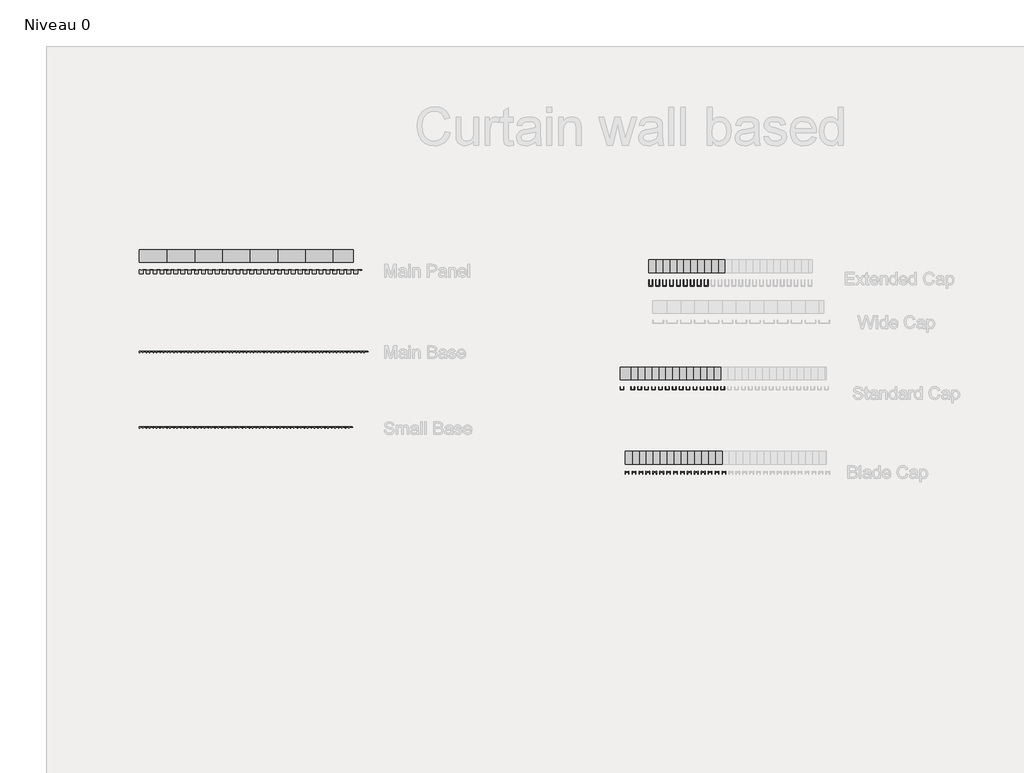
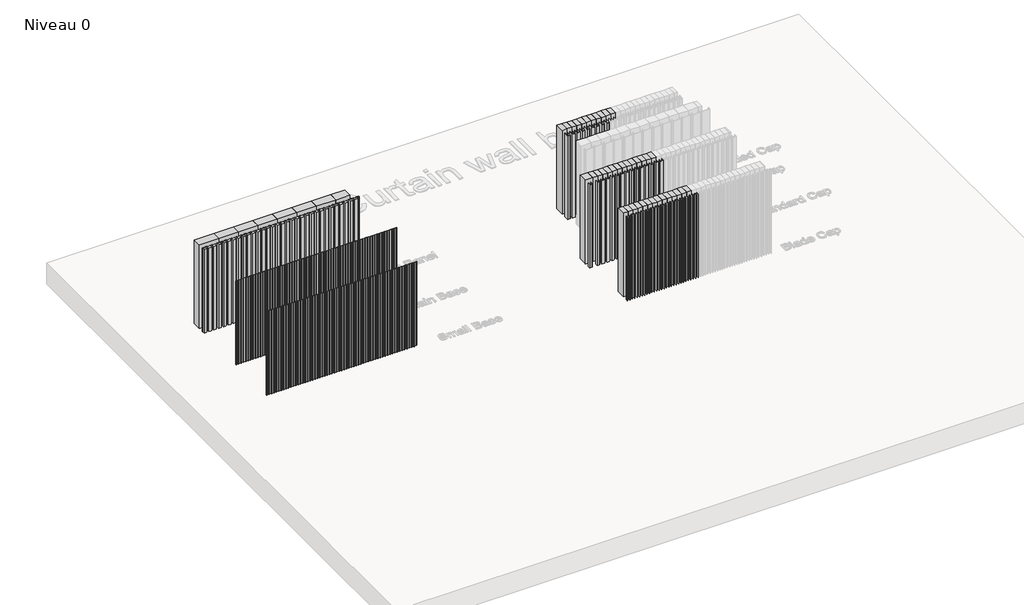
# One storey, part 1 of 25: 89 members, 47 plates.
"""IFC4 building model written with IfcOpenShell, lengths in millimetres."""

from ifc_helpers import new_model, si_unit, origin, place, context, project, spatial, transform, mapped, element, save
from components import meneau_rectangulaire_blade_cap_367a593c, meneau_rectangulaire_blade_cap_e8b624e4, meneau_rectangulaire_extended_cap_215ab1c6, meneau_rectangulaire_extended_cap_cd033b6a, meneau_rectangulaire_main_base_fb5a564e, meneau_rectangulaire_main_base_713cfc41, meneau_rectangulaire_profile_type_1b_46663aac, meneau_rectangulaire_profile_type_1b_1f7bf087, meneau_rectangulaire_small_base_5a587032, meneau_rectangulaire_small_base_88d893f0, meneau_rectangulaire_standard_cap_380d3cc9, meneau_rectangulaire_standard_cap_3ef7bdc3, vide_d62fe9b1, vide_6ecf3f0e, vide_b80c15c2, vide_94d37051, vide_beab6a31

model = new_model("IFC4")

# Units and contexts
model_context = context("Model", 3, world=origin())
ifc_project = project(units=[si_unit("LENGTHUNIT", "METRE", prefix="MILLI")], contexts=[model_context])

# Site, building, storey
site = spatial("IfcSite", under=ifc_project)
building = spatial("IfcBuilding", under=site)
storey = spatial("IfcBuildingStorey", under=building, Name="Niveau 0", Elevation=0.0)

# Members
placement = place(None, origin())
meneau_rectangulaire_blade_cap_shape = meneau_rectangulaire_blade_cap_367a593c(model_context)
element("IfcMember", 1, ObjectType="Meneau rectangulaire : Blade Cap", at=placement, inside=storey, context=model_context, shape_type="MappedRepresentation", body=[
    mapped(meneau_rectangulaire_blade_cap_shape, transform((-8726.9983427, 3201.7575125, 0.0), x_axis=(1.0, 0.0, 0.0), y_axis=(0.0, -1.0, 0.0), z_axis=(0.0, 0.0, -1.0))),
])
element("IfcMember", 2, ObjectType="Meneau rectangulaire : Blade Cap", at=placement, inside=storey, context=model_context, shape_type="MappedRepresentation", body=[
    mapped(meneau_rectangulaire_blade_cap_shape, transform((-8671.9983427, 3201.7575125, 0.0), x_axis=(1.0, 0.0, 0.0), y_axis=(0.0, -1.0, 0.0), z_axis=(0.0, 0.0, -1.0))),
])
element("IfcMember", 3, ObjectType="Meneau rectangulaire : Blade Cap", at=placement, inside=storey, context=model_context, shape_type="MappedRepresentation", body=[
    mapped(meneau_rectangulaire_blade_cap_shape, transform((-8616.9983427, 3201.7575125, 0.0), x_axis=(1.0, 0.0, 0.0), y_axis=(0.0, -1.0, 0.0), z_axis=(0.0, 0.0, -1.0))),
])
element("IfcMember", 4, ObjectType="Meneau rectangulaire : Blade Cap", at=placement, inside=storey, context=model_context, shape_type="MappedRepresentation", body=[
    mapped(meneau_rectangulaire_blade_cap_shape, transform((-8561.9983427, 3201.7575125, 0.0), x_axis=(1.0, 0.0, 0.0), y_axis=(0.0, -1.0, 0.0), z_axis=(0.0, 0.0, -1.0))),
])
element("IfcMember", 5, ObjectType="Meneau rectangulaire : Blade Cap", at=placement, inside=storey, context=model_context, shape_type="MappedRepresentation", body=[
    mapped(meneau_rectangulaire_blade_cap_shape, transform((-8506.9983427, 3201.7575125, 0.0), x_axis=(1.0, 0.0, 0.0), y_axis=(0.0, -1.0, 0.0), z_axis=(0.0, 0.0, -1.0))),
])
element("IfcMember", 6, ObjectType="Meneau rectangulaire : Blade Cap", at=placement, inside=storey, context=model_context, shape_type="MappedRepresentation", body=[
    mapped(meneau_rectangulaire_blade_cap_shape, transform((-8451.9983427, 3201.7575125, 0.0), x_axis=(1.0, 0.0, 0.0), y_axis=(0.0, -1.0, 0.0), z_axis=(0.0, 0.0, -1.0))),
])
element("IfcMember", 7, ObjectType="Meneau rectangulaire : Blade Cap", at=placement, inside=storey, context=model_context, shape_type="MappedRepresentation", body=[
    mapped(meneau_rectangulaire_blade_cap_shape, transform((-8396.9983427, 3201.7575125, 0.0), x_axis=(1.0, 0.0, 0.0), y_axis=(0.0, -1.0, 0.0), z_axis=(0.0, 0.0, -1.0))),
])
element("IfcMember", 8, ObjectType="Meneau rectangulaire : Blade Cap", at=placement, inside=storey, context=model_context, shape_type="MappedRepresentation", body=[
    mapped(meneau_rectangulaire_blade_cap_shape, transform((-8341.9983427, 3201.7575125, 0.0), x_axis=(1.0, 0.0, 0.0), y_axis=(0.0, -1.0, 0.0), z_axis=(0.0, 0.0, -1.0))),
])
element("IfcMember", 9, ObjectType="Meneau rectangulaire : Blade Cap", at=placement, inside=storey, context=model_context, shape_type="MappedRepresentation", body=[
    mapped(meneau_rectangulaire_blade_cap_shape, transform((-8286.9983427, 3201.7575125, 0.0), x_axis=(1.0, 0.0, 0.0), y_axis=(0.0, -1.0, 0.0), z_axis=(0.0, 0.0, -1.0))),
])
element("IfcMember", 10, ObjectType="Meneau rectangulaire : Blade Cap", at=placement, inside=storey, context=model_context, shape_type="MappedRepresentation", body=[
    mapped(meneau_rectangulaire_blade_cap_shape, transform((-8231.9983427, 3201.7575125, 0.0), x_axis=(1.0, 0.0, 0.0), y_axis=(0.0, -1.0, 0.0), z_axis=(0.0, 0.0, -1.0))),
])
element("IfcMember", 11, ObjectType="Meneau rectangulaire : Blade Cap", at=placement, inside=storey, context=model_context, shape_type="MappedRepresentation", body=[
    mapped(meneau_rectangulaire_blade_cap_shape, transform((-8176.9983427, 3201.7575125, 0.0), x_axis=(1.0, 0.0, 0.0), y_axis=(0.0, -1.0, 0.0), z_axis=(0.0, 0.0, -1.0))),
])
element("IfcMember", 12, ObjectType="Meneau rectangulaire : Blade Cap", at=placement, inside=storey, context=model_context, shape_type="MappedRepresentation", body=[
    mapped(meneau_rectangulaire_blade_cap_shape, transform((-8121.9983427, 3201.7575125, 0.0), x_axis=(1.0, 0.0, 0.0), y_axis=(0.0, -1.0, 0.0), z_axis=(0.0, 0.0, -1.0))),
])
element("IfcMember", 13, ObjectType="Meneau rectangulaire : Blade Cap", at=placement, inside=storey, context=model_context, shape_type="MappedRepresentation", body=[
    mapped(meneau_rectangulaire_blade_cap_shape, transform((-8066.9983427, 3201.7575125, 0.0), x_axis=(1.0, 0.0, 0.0), y_axis=(0.0, -1.0, 0.0), z_axis=(0.0, 0.0, -1.0))),
])
element("IfcMember", 14, ObjectType="Meneau rectangulaire : Blade Cap", at=placement, inside=storey, context=model_context, shape_type="MappedRepresentation", body=[
    mapped(meneau_rectangulaire_blade_cap_shape, transform((-8011.9983427, 3201.7575125, 0.0), x_axis=(1.0, 0.0, 0.0), y_axis=(0.0, -1.0, 0.0), z_axis=(0.0, 0.0, -1.0))),
])
meneau_rectangulaire_blade_cap_2_shape = meneau_rectangulaire_blade_cap_e8b624e4(model_context)
element("IfcMember", 15, ObjectType="Meneau rectangulaire : Blade Cap", at=placement, inside=storey, context=model_context, shape_type="MappedRepresentation", body=[
    mapped(meneau_rectangulaire_blade_cap_2_shape, transform((-8781.998343, 3201.7575125, 1000.0), x_axis=(-1.0, 0.0, 0.0), y_axis=(0.0, -1.0, 0.0), z_axis=(0.0, 0.0, 1.0))),
])
meneau_rectangulaire_extended_cap_shape = meneau_rectangulaire_extended_cap_215ab1c6(model_context)
element("IfcMember", 16, ObjectType="Meneau rectangulaire : Extended Cap", at=placement, inside=storey, context=model_context, shape_type="MappedRepresentation", body=[
    mapped(meneau_rectangulaire_extended_cap_shape, transform((-8538.6900016, 4724.3413951, 0.0), x_axis=(1.0, 0.0, 0.0), y_axis=(0.0, -1.0, 0.0), z_axis=(0.0, 0.0, -1.0))),
])
element("IfcMember", 17, ObjectType="Meneau rectangulaire : Extended Cap", at=placement, inside=storey, context=model_context, shape_type="MappedRepresentation", body=[
    mapped(meneau_rectangulaire_extended_cap_shape, transform((-8483.6900016, 4724.3413951, 0.0), x_axis=(1.0, 0.0, 0.0), y_axis=(0.0, -1.0, 0.0), z_axis=(0.0, 0.0, -1.0))),
])
element("IfcMember", 18, ObjectType="Meneau rectangulaire : Extended Cap", at=placement, inside=storey, context=model_context, shape_type="MappedRepresentation", body=[
    mapped(meneau_rectangulaire_extended_cap_shape, transform((-8428.6900016, 4724.3413951, 0.0), x_axis=(1.0, 0.0, 0.0), y_axis=(0.0, -1.0, 0.0), z_axis=(0.0, 0.0, -1.0))),
])
element("IfcMember", 19, ObjectType="Meneau rectangulaire : Extended Cap", at=placement, inside=storey, context=model_context, shape_type="MappedRepresentation", body=[
    mapped(meneau_rectangulaire_extended_cap_shape, transform((-8373.6900016, 4724.3413951, 0.0), x_axis=(1.0, 0.0, 0.0), y_axis=(0.0, -1.0, 0.0), z_axis=(0.0, 0.0, -1.0))),
])
element("IfcMember", 20, ObjectType="Meneau rectangulaire : Extended Cap", at=placement, inside=storey, context=model_context, shape_type="MappedRepresentation", body=[
    mapped(meneau_rectangulaire_extended_cap_shape, transform((-8318.6900016, 4724.3413951, 0.0), x_axis=(1.0, 0.0, 0.0), y_axis=(0.0, -1.0, 0.0), z_axis=(0.0, 0.0, -1.0))),
])
element("IfcMember", 21, ObjectType="Meneau rectangulaire : Extended Cap", at=placement, inside=storey, context=model_context, shape_type="MappedRepresentation", body=[
    mapped(meneau_rectangulaire_extended_cap_shape, transform((-8263.6900016, 4724.3413951, 0.0), x_axis=(1.0, 0.0, 0.0), y_axis=(0.0, -1.0, 0.0), z_axis=(0.0, 0.0, -1.0))),
])
element("IfcMember", 22, ObjectType="Meneau rectangulaire : Extended Cap", at=placement, inside=storey, context=model_context, shape_type="MappedRepresentation", body=[
    mapped(meneau_rectangulaire_extended_cap_shape, transform((-8208.6900016, 4724.3413951, 0.0), x_axis=(1.0, 0.0, 0.0), y_axis=(0.0, -1.0, 0.0), z_axis=(0.0, 0.0, -1.0))),
])
element("IfcMember", 23, ObjectType="Meneau rectangulaire : Extended Cap", at=placement, inside=storey, context=model_context, shape_type="MappedRepresentation", body=[
    mapped(meneau_rectangulaire_extended_cap_shape, transform((-8153.6900016, 4724.3413951, 0.0), x_axis=(1.0, 0.0, 0.0), y_axis=(0.0, -1.0, 0.0), z_axis=(0.0, 0.0, -1.0))),
])
meneau_rectangulaire_extended_cap_2_shape = meneau_rectangulaire_extended_cap_cd033b6a(model_context)
element("IfcMember", 24, ObjectType="Meneau rectangulaire : Extended Cap", at=placement, inside=storey, context=model_context, shape_type="MappedRepresentation", body=[
    mapped(meneau_rectangulaire_extended_cap_2_shape, transform((-8593.6900019, 4724.3413951, 1000.0), x_axis=(-1.0, 0.0, 0.0), y_axis=(0.0, -1.0, 0.0), z_axis=(0.0, 0.0, 1.0))),
])
meneau_rectangulaire_main_base_shape = meneau_rectangulaire_main_base_fb5a564e(model_context)
element("IfcMember", 25, ObjectType="Meneau rectangulaire : Main base", at=placement, inside=storey, context=model_context, shape_type="MappedRepresentation", body=[
    mapped(meneau_rectangulaire_main_base_shape, transform((-12479.4341999, 4148.2926833, 0.0), x_axis=(1.0, 0.0, 0.0), y_axis=(0.0, -1.0, 0.0), z_axis=(0.0, 0.0, -1.0))),
])
element("IfcMember", 26, ObjectType="Meneau rectangulaire : Main base", at=placement, inside=storey, context=model_context, shape_type="MappedRepresentation", body=[
    mapped(meneau_rectangulaire_main_base_shape, transform((-12314.4341999, 4148.2926833, 0.0), x_axis=(1.0, 0.0, 0.0), y_axis=(0.0, -1.0, 0.0), z_axis=(0.0, 0.0, -1.0))),
])
element("IfcMember", 27, ObjectType="Meneau rectangulaire : Main base", at=placement, inside=storey, context=model_context, shape_type="MappedRepresentation", body=[
    mapped(meneau_rectangulaire_main_base_shape, transform((-12149.4341999, 4148.2926833, 0.0), x_axis=(1.0, 0.0, 0.0), y_axis=(0.0, -1.0, 0.0), z_axis=(0.0, 0.0, -1.0))),
])
element("IfcMember", 28, ObjectType="Meneau rectangulaire : Main base", at=placement, inside=storey, context=model_context, shape_type="MappedRepresentation", body=[
    mapped(meneau_rectangulaire_main_base_shape, transform((-11984.4341999, 4148.2926833, 0.0), x_axis=(1.0, 0.0, 0.0), y_axis=(0.0, -1.0, 0.0), z_axis=(0.0, 0.0, -1.0))),
])
element("IfcMember", 29, ObjectType="Meneau rectangulaire : Main base", at=placement, inside=storey, context=model_context, shape_type="MappedRepresentation", body=[
    mapped(meneau_rectangulaire_main_base_shape, transform((-11819.4341999, 4148.2926833, 0.0), x_axis=(1.0, 0.0, 0.0), y_axis=(0.0, -1.0, 0.0), z_axis=(0.0, 0.0, -1.0))),
])
element("IfcMember", 30, ObjectType="Meneau rectangulaire : Main base", at=placement, inside=storey, context=model_context, shape_type="MappedRepresentation", body=[
    mapped(meneau_rectangulaire_main_base_shape, transform((-11654.4341999, 4148.2926833, 0.0), x_axis=(1.0, 0.0, 0.0), y_axis=(0.0, -1.0, 0.0), z_axis=(0.0, 0.0, -1.0))),
])
element("IfcMember", 31, ObjectType="Meneau rectangulaire : Main base", at=placement, inside=storey, context=model_context, shape_type="MappedRepresentation", body=[
    mapped(meneau_rectangulaire_main_base_shape, transform((-11489.4341999, 4148.2926833, 0.0), x_axis=(1.0, 0.0, 0.0), y_axis=(0.0, -1.0, 0.0), z_axis=(0.0, 0.0, -1.0))),
])
element("IfcMember", 32, ObjectType="Meneau rectangulaire : Main base", at=placement, inside=storey, context=model_context, shape_type="MappedRepresentation", body=[
    mapped(meneau_rectangulaire_main_base_shape, transform((-11324.4341999, 4148.2926833, 0.0), x_axis=(1.0, 0.0, 0.0), y_axis=(0.0, -1.0, 0.0), z_axis=(0.0, 0.0, -1.0))),
])
element("IfcMember", 33, ObjectType="Meneau rectangulaire : Main base", at=placement, inside=storey, context=model_context, shape_type="MappedRepresentation", body=[
    mapped(meneau_rectangulaire_main_base_shape, transform((-11159.4341999, 4148.2926833, 0.0), x_axis=(1.0, 0.0, 0.0), y_axis=(0.0, -1.0, 0.0), z_axis=(0.0, 0.0, -1.0))),
])
element("IfcMember", 34, ObjectType="Meneau rectangulaire : Main base", at=placement, inside=storey, context=model_context, shape_type="MappedRepresentation", body=[
    mapped(meneau_rectangulaire_main_base_shape, transform((-10994.4341999, 4148.2926833, 0.0), x_axis=(1.0, 0.0, 0.0), y_axis=(0.0, -1.0, 0.0), z_axis=(0.0, 0.0, -1.0))),
])
meneau_rectangulaire_main_base_2_shape = meneau_rectangulaire_main_base_713cfc41(model_context)
element("IfcMember", 35, ObjectType="Meneau rectangulaire : Main base", at=placement, inside=storey, context=model_context, shape_type="MappedRepresentation", body=[
    mapped(meneau_rectangulaire_main_base_2_shape, transform((-12644.4342002, 4148.2926833, 1000.0), x_axis=(-1.0, 0.0, 0.0), y_axis=(0.0, -1.0, 0.0), z_axis=(0.0, 0.0, 1.0))),
])
meneau_rectangulaire_profile_type_1b_shape = meneau_rectangulaire_profile_type_1b_46663aac(model_context)
element("IfcMember", 36, ObjectType="Meneau rectangulaire : Profile_Type 1b", at=placement, inside=storey, context=model_context, shape_type="MappedRepresentation", body=[
    mapped(meneau_rectangulaire_profile_type_1b_shape, transform((-12424.4341999, 4805.5643025, 0.0), x_axis=(1.0, 0.0, 0.0), y_axis=(0.0, -1.0, 0.0), z_axis=(0.0, 0.0, -1.0))),
])
element("IfcMember", 37, ObjectType="Meneau rectangulaire : Profile_Type 1b", at=placement, inside=storey, context=model_context, shape_type="MappedRepresentation", body=[
    mapped(meneau_rectangulaire_profile_type_1b_shape, transform((-12204.4341999, 4805.5643025, 0.0), x_axis=(1.0, 0.0, 0.0), y_axis=(0.0, -1.0, 0.0), z_axis=(0.0, 0.0, -1.0))),
])
element("IfcMember", 38, ObjectType="Meneau rectangulaire : Profile_Type 1b", at=placement, inside=storey, context=model_context, shape_type="MappedRepresentation", body=[
    mapped(meneau_rectangulaire_profile_type_1b_shape, transform((-11984.4341999, 4805.5643025, 0.0), x_axis=(1.0, 0.0, 0.0), y_axis=(0.0, -1.0, 0.0), z_axis=(0.0, 0.0, -1.0))),
])
element("IfcMember", 39, ObjectType="Meneau rectangulaire : Profile_Type 1b", at=placement, inside=storey, context=model_context, shape_type="MappedRepresentation", body=[
    mapped(meneau_rectangulaire_profile_type_1b_shape, transform((-11764.4341999, 4805.5643025, 0.0), x_axis=(1.0, 0.0, 0.0), y_axis=(0.0, -1.0, 0.0), z_axis=(0.0, 0.0, -1.0))),
])
element("IfcMember", 40, ObjectType="Meneau rectangulaire : Profile_Type 1b", at=placement, inside=storey, context=model_context, shape_type="MappedRepresentation", body=[
    mapped(meneau_rectangulaire_profile_type_1b_shape, transform((-11544.4341999, 4805.5643025, 0.0), x_axis=(1.0, 0.0, 0.0), y_axis=(0.0, -1.0, 0.0), z_axis=(0.0, 0.0, -1.0))),
])
element("IfcMember", 41, ObjectType="Meneau rectangulaire : Profile_Type 1b", at=placement, inside=storey, context=model_context, shape_type="MappedRepresentation", body=[
    mapped(meneau_rectangulaire_profile_type_1b_shape, transform((-11324.4341999, 4805.5643025, 0.0), x_axis=(1.0, 0.0, 0.0), y_axis=(0.0, -1.0, 0.0), z_axis=(0.0, 0.0, -1.0))),
])
element("IfcMember", 42, ObjectType="Meneau rectangulaire : Profile_Type 1b", at=placement, inside=storey, context=model_context, shape_type="MappedRepresentation", body=[
    mapped(meneau_rectangulaire_profile_type_1b_shape, transform((-11104.4341999, 4805.5643025, 0.0), x_axis=(1.0, 0.0, 0.0), y_axis=(0.0, -1.0, 0.0), z_axis=(0.0, 0.0, -1.0))),
])
meneau_rectangulaire_profile_type_1b_2_shape = meneau_rectangulaire_profile_type_1b_1f7bf087(model_context)
element("IfcMember", 43, ObjectType="Meneau rectangulaire : Profile_Type 1b", at=placement, inside=storey, context=model_context, shape_type="MappedRepresentation", body=[
    mapped(meneau_rectangulaire_profile_type_1b_2_shape, transform((-12644.4342002, 4805.5643025, 1000.0), x_axis=(-1.0, 0.0, 0.0), y_axis=(0.0, -1.0, 0.0), z_axis=(0.0, 0.0, 1.0))),
])
meneau_rectangulaire_small_base_shape = meneau_rectangulaire_small_base_5a587032(model_context)
element("IfcMember", 44, ObjectType="Meneau rectangulaire : Small Base", at=placement, inside=storey, context=model_context, shape_type="MappedRepresentation", body=[
    mapped(meneau_rectangulaire_small_base_shape, transform((-12589.8341999, 3548.2926833, 0.0), x_axis=(1.0, 0.0, 0.0), y_axis=(0.0, -1.0, 0.0), z_axis=(0.0, 0.0, -1.0))),
])
element("IfcMember", 45, ObjectType="Meneau rectangulaire : Small Base", at=placement, inside=storey, context=model_context, shape_type="MappedRepresentation", body=[
    mapped(meneau_rectangulaire_small_base_shape, transform((-12535.2341999, 3548.2926833, 0.0), x_axis=(1.0, 0.0, 0.0), y_axis=(0.0, -1.0, 0.0), z_axis=(0.0, 0.0, -1.0))),
])
element("IfcMember", 46, ObjectType="Meneau rectangulaire : Small Base", at=placement, inside=storey, context=model_context, shape_type="MappedRepresentation", body=[
    mapped(meneau_rectangulaire_small_base_shape, transform((-12480.6341999, 3548.2926833, 0.0), x_axis=(1.0, 0.0, 0.0), y_axis=(0.0, -1.0, 0.0), z_axis=(0.0, 0.0, -1.0))),
])
element("IfcMember", 47, ObjectType="Meneau rectangulaire : Small Base", at=placement, inside=storey, context=model_context, shape_type="MappedRepresentation", body=[
    mapped(meneau_rectangulaire_small_base_shape, transform((-12426.0341999, 3548.2926833, 0.0), x_axis=(1.0, 0.0, 0.0), y_axis=(0.0, -1.0, 0.0), z_axis=(0.0, 0.0, -1.0))),
])
element("IfcMember", 48, ObjectType="Meneau rectangulaire : Small Base", at=placement, inside=storey, context=model_context, shape_type="MappedRepresentation", body=[
    mapped(meneau_rectangulaire_small_base_shape, transform((-12371.4341999, 3548.2926833, 0.0), x_axis=(1.0, 0.0, 0.0), y_axis=(0.0, -1.0, 0.0), z_axis=(0.0, 0.0, -1.0))),
])
element("IfcMember", 49, ObjectType="Meneau rectangulaire : Small Base", at=placement, inside=storey, context=model_context, shape_type="MappedRepresentation", body=[
    mapped(meneau_rectangulaire_small_base_shape, transform((-12316.8341999, 3548.2926833, 0.0), x_axis=(1.0, 0.0, 0.0), y_axis=(0.0, -1.0, 0.0), z_axis=(0.0, 0.0, -1.0))),
])
element("IfcMember", 50, ObjectType="Meneau rectangulaire : Small Base", at=placement, inside=storey, context=model_context, shape_type="MappedRepresentation", body=[
    mapped(meneau_rectangulaire_small_base_shape, transform((-12262.2341999, 3548.2926833, 0.0), x_axis=(1.0, 0.0, 0.0), y_axis=(0.0, -1.0, 0.0), z_axis=(0.0, 0.0, -1.0))),
])
element("IfcMember", 51, ObjectType="Meneau rectangulaire : Small Base", at=placement, inside=storey, context=model_context, shape_type="MappedRepresentation", body=[
    mapped(meneau_rectangulaire_small_base_shape, transform((-12207.6341999, 3548.2926833, 0.0), x_axis=(1.0, 0.0, 0.0), y_axis=(0.0, -1.0, 0.0), z_axis=(0.0, 0.0, -1.0))),
])
element("IfcMember", 52, ObjectType="Meneau rectangulaire : Small Base", at=placement, inside=storey, context=model_context, shape_type="MappedRepresentation", body=[
    mapped(meneau_rectangulaire_small_base_shape, transform((-12153.0341999, 3548.2926833, 0.0), x_axis=(1.0, 0.0, 0.0), y_axis=(0.0, -1.0, 0.0), z_axis=(0.0, 0.0, -1.0))),
])
element("IfcMember", 53, ObjectType="Meneau rectangulaire : Small Base", at=placement, inside=storey, context=model_context, shape_type="MappedRepresentation", body=[
    mapped(meneau_rectangulaire_small_base_shape, transform((-12098.4341999, 3548.2926833, 0.0), x_axis=(1.0, 0.0, 0.0), y_axis=(0.0, -1.0, 0.0), z_axis=(0.0, 0.0, -1.0))),
])
element("IfcMember", 54, ObjectType="Meneau rectangulaire : Small Base", at=placement, inside=storey, context=model_context, shape_type="MappedRepresentation", body=[
    mapped(meneau_rectangulaire_small_base_shape, transform((-12043.8341999, 3548.2926833, 0.0), x_axis=(1.0, 0.0, 0.0), y_axis=(0.0, -1.0, 0.0), z_axis=(0.0, 0.0, -1.0))),
])
element("IfcMember", 55, ObjectType="Meneau rectangulaire : Small Base", at=placement, inside=storey, context=model_context, shape_type="MappedRepresentation", body=[
    mapped(meneau_rectangulaire_small_base_shape, transform((-11989.2341999, 3548.2926833, 0.0), x_axis=(1.0, 0.0, 0.0), y_axis=(0.0, -1.0, 0.0), z_axis=(0.0, 0.0, -1.0))),
])
element("IfcMember", 56, ObjectType="Meneau rectangulaire : Small Base", at=placement, inside=storey, context=model_context, shape_type="MappedRepresentation", body=[
    mapped(meneau_rectangulaire_small_base_shape, transform((-11934.6341999, 3548.2926833, 0.0), x_axis=(1.0, 0.0, 0.0), y_axis=(0.0, -1.0, 0.0), z_axis=(0.0, 0.0, -1.0))),
])
element("IfcMember", 57, ObjectType="Meneau rectangulaire : Small Base", at=placement, inside=storey, context=model_context, shape_type="MappedRepresentation", body=[
    mapped(meneau_rectangulaire_small_base_shape, transform((-11880.0341999, 3548.2926833, 0.0), x_axis=(1.0, 0.0, 0.0), y_axis=(0.0, -1.0, 0.0), z_axis=(0.0, 0.0, -1.0))),
])
element("IfcMember", 58, ObjectType="Meneau rectangulaire : Small Base", at=placement, inside=storey, context=model_context, shape_type="MappedRepresentation", body=[
    mapped(meneau_rectangulaire_small_base_shape, transform((-11825.4341999, 3548.2926833, 0.0), x_axis=(1.0, 0.0, 0.0), y_axis=(0.0, -1.0, 0.0), z_axis=(0.0, 0.0, -1.0))),
])
element("IfcMember", 59, ObjectType="Meneau rectangulaire : Small Base", at=placement, inside=storey, context=model_context, shape_type="MappedRepresentation", body=[
    mapped(meneau_rectangulaire_small_base_shape, transform((-11770.8341999, 3548.2926833, 0.0), x_axis=(1.0, 0.0, 0.0), y_axis=(0.0, -1.0, 0.0), z_axis=(0.0, 0.0, -1.0))),
])
element("IfcMember", 60, ObjectType="Meneau rectangulaire : Small Base", at=placement, inside=storey, context=model_context, shape_type="MappedRepresentation", body=[
    mapped(meneau_rectangulaire_small_base_shape, transform((-11716.2341999, 3548.2926833, 0.0), x_axis=(1.0, 0.0, 0.0), y_axis=(0.0, -1.0, 0.0), z_axis=(0.0, 0.0, -1.0))),
])
element("IfcMember", 61, ObjectType="Meneau rectangulaire : Small Base", at=placement, inside=storey, context=model_context, shape_type="MappedRepresentation", body=[
    mapped(meneau_rectangulaire_small_base_shape, transform((-11661.6341999, 3548.2926833, 0.0), x_axis=(1.0, 0.0, 0.0), y_axis=(0.0, -1.0, 0.0), z_axis=(0.0, 0.0, -1.0))),
])
element("IfcMember", 62, ObjectType="Meneau rectangulaire : Small Base", at=placement, inside=storey, context=model_context, shape_type="MappedRepresentation", body=[
    mapped(meneau_rectangulaire_small_base_shape, transform((-11607.0341999, 3548.2926833, 0.0), x_axis=(1.0, 0.0, 0.0), y_axis=(0.0, -1.0, 0.0), z_axis=(0.0, 0.0, -1.0))),
])
element("IfcMember", 63, ObjectType="Meneau rectangulaire : Small Base", at=placement, inside=storey, context=model_context, shape_type="MappedRepresentation", body=[
    mapped(meneau_rectangulaire_small_base_shape, transform((-11552.4341999, 3548.2926833, 0.0), x_axis=(1.0, 0.0, 0.0), y_axis=(0.0, -1.0, 0.0), z_axis=(0.0, 0.0, -1.0))),
])
element("IfcMember", 64, ObjectType="Meneau rectangulaire : Small Base", at=placement, inside=storey, context=model_context, shape_type="MappedRepresentation", body=[
    mapped(meneau_rectangulaire_small_base_shape, transform((-11497.8341999, 3548.2926833, 0.0), x_axis=(1.0, 0.0, 0.0), y_axis=(0.0, -1.0, 0.0), z_axis=(0.0, 0.0, -1.0))),
])
element("IfcMember", 65, ObjectType="Meneau rectangulaire : Small Base", at=placement, inside=storey, context=model_context, shape_type="MappedRepresentation", body=[
    mapped(meneau_rectangulaire_small_base_shape, transform((-11443.2341999, 3548.2926833, 0.0), x_axis=(1.0, 0.0, 0.0), y_axis=(0.0, -1.0, 0.0), z_axis=(0.0, 0.0, -1.0))),
])
element("IfcMember", 66, ObjectType="Meneau rectangulaire : Small Base", at=placement, inside=storey, context=model_context, shape_type="MappedRepresentation", body=[
    mapped(meneau_rectangulaire_small_base_shape, transform((-11388.6341999, 3548.2926833, 0.0), x_axis=(1.0, 0.0, 0.0), y_axis=(0.0, -1.0, 0.0), z_axis=(0.0, 0.0, -1.0))),
])
element("IfcMember", 67, ObjectType="Meneau rectangulaire : Small Base", at=placement, inside=storey, context=model_context, shape_type="MappedRepresentation", body=[
    mapped(meneau_rectangulaire_small_base_shape, transform((-11334.0341999, 3548.2926833, 0.0), x_axis=(1.0, 0.0, 0.0), y_axis=(0.0, -1.0, 0.0), z_axis=(0.0, 0.0, -1.0))),
])
element("IfcMember", 68, ObjectType="Meneau rectangulaire : Small Base", at=placement, inside=storey, context=model_context, shape_type="MappedRepresentation", body=[
    mapped(meneau_rectangulaire_small_base_shape, transform((-11279.4341999, 3548.2926833, 0.0), x_axis=(1.0, 0.0, 0.0), y_axis=(0.0, -1.0, 0.0), z_axis=(0.0, 0.0, -1.0))),
])
element("IfcMember", 69, ObjectType="Meneau rectangulaire : Small Base", at=placement, inside=storey, context=model_context, shape_type="MappedRepresentation", body=[
    mapped(meneau_rectangulaire_small_base_shape, transform((-11224.8341999, 3548.2926833, 0.0), x_axis=(1.0, 0.0, 0.0), y_axis=(0.0, -1.0, 0.0), z_axis=(0.0, 0.0, -1.0))),
])
element("IfcMember", 70, ObjectType="Meneau rectangulaire : Small Base", at=placement, inside=storey, context=model_context, shape_type="MappedRepresentation", body=[
    mapped(meneau_rectangulaire_small_base_shape, transform((-11170.2341999, 3548.2926833, 0.0), x_axis=(1.0, 0.0, 0.0), y_axis=(0.0, -1.0, 0.0), z_axis=(0.0, 0.0, -1.0))),
])
element("IfcMember", 71, ObjectType="Meneau rectangulaire : Small Base", at=placement, inside=storey, context=model_context, shape_type="MappedRepresentation", body=[
    mapped(meneau_rectangulaire_small_base_shape, transform((-11115.6341999, 3548.2926833, 0.0), x_axis=(1.0, 0.0, 0.0), y_axis=(0.0, -1.0, 0.0), z_axis=(0.0, 0.0, -1.0))),
])
element("IfcMember", 72, ObjectType="Meneau rectangulaire : Small Base", at=placement, inside=storey, context=model_context, shape_type="MappedRepresentation", body=[
    mapped(meneau_rectangulaire_small_base_shape, transform((-11061.0341999, 3548.2926833, 0.0), x_axis=(1.0, 0.0, 0.0), y_axis=(0.0, -1.0, 0.0), z_axis=(0.0, 0.0, -1.0))),
])
element("IfcMember", 73, ObjectType="Meneau rectangulaire : Small Base", at=placement, inside=storey, context=model_context, shape_type="MappedRepresentation", body=[
    mapped(meneau_rectangulaire_small_base_shape, transform((-11006.4341999, 3548.2926833, 0.0), x_axis=(1.0, 0.0, 0.0), y_axis=(0.0, -1.0, 0.0), z_axis=(0.0, 0.0, -1.0))),
])
meneau_rectangulaire_small_base_2_shape = meneau_rectangulaire_small_base_88d893f0(model_context)
element("IfcMember", 74, ObjectType="Meneau rectangulaire : Small Base", at=placement, inside=storey, context=model_context, shape_type="MappedRepresentation", body=[
    mapped(meneau_rectangulaire_small_base_2_shape, transform((-12644.4342002, 3548.2926833, 1000.0), x_axis=(-1.0, 0.0, 0.0), y_axis=(0.0, -1.0, 0.0), z_axis=(0.0, 0.0, 1.0))),
])
meneau_rectangulaire_standard_cap_shape = meneau_rectangulaire_standard_cap_380d3cc9(model_context)
element("IfcMember", 75, ObjectType="Meneau rectangulaire : Standard Cap", at=placement, inside=storey, context=model_context, shape_type="MappedRepresentation", body=[
    mapped(meneau_rectangulaire_standard_cap_shape, transform((-8736.9983427, 3872.9622137, 0.0), x_axis=(1.0, 0.0, 0.0), y_axis=(0.0, -1.0, 0.0), z_axis=(0.0, 0.0, -1.0))),
])
element("IfcMember", 76, ObjectType="Meneau rectangulaire : Standard Cap", at=placement, inside=storey, context=model_context, shape_type="MappedRepresentation", body=[
    mapped(meneau_rectangulaire_standard_cap_shape, transform((-8681.9983427, 3872.9622137, 0.0), x_axis=(1.0, 0.0, 0.0), y_axis=(0.0, -1.0, 0.0), z_axis=(0.0, 0.0, -1.0))),
])
element("IfcMember", 77, ObjectType="Meneau rectangulaire : Standard Cap", at=placement, inside=storey, context=model_context, shape_type="MappedRepresentation", body=[
    mapped(meneau_rectangulaire_standard_cap_shape, transform((-8626.9983427, 3872.9622137, 0.0), x_axis=(1.0, 0.0, 0.0), y_axis=(0.0, -1.0, 0.0), z_axis=(0.0, 0.0, -1.0))),
])
element("IfcMember", 78, ObjectType="Meneau rectangulaire : Standard Cap", at=placement, inside=storey, context=model_context, shape_type="MappedRepresentation", body=[
    mapped(meneau_rectangulaire_standard_cap_shape, transform((-8571.9983427, 3872.9622137, 0.0), x_axis=(1.0, 0.0, 0.0), y_axis=(0.0, -1.0, 0.0), z_axis=(0.0, 0.0, -1.0))),
])
element("IfcMember", 79, ObjectType="Meneau rectangulaire : Standard Cap", at=placement, inside=storey, context=model_context, shape_type="MappedRepresentation", body=[
    mapped(meneau_rectangulaire_standard_cap_shape, transform((-8516.9983427, 3872.9622137, 0.0), x_axis=(1.0, 0.0, 0.0), y_axis=(0.0, -1.0, 0.0), z_axis=(0.0, 0.0, -1.0))),
])
element("IfcMember", 80, ObjectType="Meneau rectangulaire : Standard Cap", at=placement, inside=storey, context=model_context, shape_type="MappedRepresentation", body=[
    mapped(meneau_rectangulaire_standard_cap_shape, transform((-8461.9983427, 3872.9622137, 0.0), x_axis=(1.0, 0.0, 0.0), y_axis=(0.0, -1.0, 0.0), z_axis=(0.0, 0.0, -1.0))),
])
element("IfcMember", 81, ObjectType="Meneau rectangulaire : Standard Cap", at=placement, inside=storey, context=model_context, shape_type="MappedRepresentation", body=[
    mapped(meneau_rectangulaire_standard_cap_shape, transform((-8406.9983427, 3872.9622137, 0.0), x_axis=(1.0, 0.0, 0.0), y_axis=(0.0, -1.0, 0.0), z_axis=(0.0, 0.0, -1.0))),
])
element("IfcMember", 82, ObjectType="Meneau rectangulaire : Standard Cap", at=placement, inside=storey, context=model_context, shape_type="MappedRepresentation", body=[
    mapped(meneau_rectangulaire_standard_cap_shape, transform((-8351.9983427, 3872.9622137, 0.0), x_axis=(1.0, 0.0, 0.0), y_axis=(0.0, -1.0, 0.0), z_axis=(0.0, 0.0, -1.0))),
])
element("IfcMember", 83, ObjectType="Meneau rectangulaire : Standard Cap", at=placement, inside=storey, context=model_context, shape_type="MappedRepresentation", body=[
    mapped(meneau_rectangulaire_standard_cap_shape, transform((-8296.9983427, 3872.9622137, 0.0), x_axis=(1.0, 0.0, 0.0), y_axis=(0.0, -1.0, 0.0), z_axis=(0.0, 0.0, -1.0))),
])
element("IfcMember", 84, ObjectType="Meneau rectangulaire : Standard Cap", at=placement, inside=storey, context=model_context, shape_type="MappedRepresentation", body=[
    mapped(meneau_rectangulaire_standard_cap_shape, transform((-8241.9983427, 3872.9622137, 0.0), x_axis=(1.0, 0.0, 0.0), y_axis=(0.0, -1.0, 0.0), z_axis=(0.0, 0.0, -1.0))),
])
element("IfcMember", 85, ObjectType="Meneau rectangulaire : Standard Cap", at=placement, inside=storey, context=model_context, shape_type="MappedRepresentation", body=[
    mapped(meneau_rectangulaire_standard_cap_shape, transform((-8186.9983427, 3872.9622137, 0.0), x_axis=(1.0, 0.0, 0.0), y_axis=(0.0, -1.0, 0.0), z_axis=(0.0, 0.0, -1.0))),
])
element("IfcMember", 86, ObjectType="Meneau rectangulaire : Standard Cap", at=placement, inside=storey, context=model_context, shape_type="MappedRepresentation", body=[
    mapped(meneau_rectangulaire_standard_cap_shape, transform((-8131.9983427, 3872.9622137, 0.0), x_axis=(1.0, 0.0, 0.0), y_axis=(0.0, -1.0, 0.0), z_axis=(0.0, 0.0, -1.0))),
])
element("IfcMember", 87, ObjectType="Meneau rectangulaire : Standard Cap", at=placement, inside=storey, context=model_context, shape_type="MappedRepresentation", body=[
    mapped(meneau_rectangulaire_standard_cap_shape, transform((-8076.9983427, 3872.9622137, 0.0), x_axis=(1.0, 0.0, 0.0), y_axis=(0.0, -1.0, 0.0), z_axis=(0.0, 0.0, -1.0))),
])
element("IfcMember", 88, ObjectType="Meneau rectangulaire : Standard Cap", at=placement, inside=storey, context=model_context, shape_type="MappedRepresentation", body=[
    mapped(meneau_rectangulaire_standard_cap_shape, transform((-8021.9983427, 3872.9622137, 0.0), x_axis=(1.0, 0.0, 0.0), y_axis=(0.0, -1.0, 0.0), z_axis=(0.0, 0.0, -1.0))),
])
meneau_rectangulaire_standard_cap_2_shape = meneau_rectangulaire_standard_cap_3ef7bdc3(model_context)
element("IfcMember", 89, ObjectType="Meneau rectangulaire : Standard Cap", at=placement, inside=storey, context=model_context, shape_type="MappedRepresentation", body=[
    mapped(meneau_rectangulaire_standard_cap_2_shape, transform((-8821.998343, 3872.9622137, 1000.0), x_axis=(-1.0, 0.0, 0.0), y_axis=(0.0, -1.0, 0.0), z_axis=(0.0, 0.0, 1.0))),
])

# Plates
vide_shape = vide_d62fe9b1(model_context)
element("IfcPlate", 90, ObjectType="Panneau système vide : Vide", at=placement, inside=storey, context=model_context, shape_type="MappedRepresentation", body=[
    mapped(vide_shape, transform((-12534.4342001, 4805.5643025, 0.0), x_axis=(1.0, 0.0, 0.0), y_axis=(0.0, 1.0, 0.0), z_axis=(0.0, 0.0, 1.0))),
])
element("IfcPlate", 91, ObjectType="Panneau système vide : Vide", at=placement, inside=storey, context=model_context, shape_type="MappedRepresentation", body=[
    mapped(vide_shape, transform((-12314.4341999, 4805.5643025, 0.0), x_axis=(1.0, 0.0, 0.0), y_axis=(0.0, 1.0, 0.0), z_axis=(0.0, 0.0, 1.0))),
])
element("IfcPlate", 92, ObjectType="Panneau système vide : Vide", at=placement, inside=storey, context=model_context, shape_type="MappedRepresentation", body=[
    mapped(vide_shape, transform((-12094.4341999, 4805.5643025, 0.0), x_axis=(1.0, 0.0, 0.0), y_axis=(0.0, 1.0, 0.0), z_axis=(0.0, 0.0, 1.0))),
])
element("IfcPlate", 93, ObjectType="Panneau système vide : Vide", at=placement, inside=storey, context=model_context, shape_type="MappedRepresentation", body=[
    mapped(vide_shape, transform((-11874.4341999, 4805.5643025, 0.0), x_axis=(1.0, 0.0, 0.0), y_axis=(0.0, 1.0, 0.0), z_axis=(0.0, 0.0, 1.0))),
])
element("IfcPlate", 94, ObjectType="Panneau système vide : Vide", at=placement, inside=storey, context=model_context, shape_type="MappedRepresentation", body=[
    mapped(vide_shape, transform((-11654.4341999, 4805.5643025, 0.0), x_axis=(1.0, 0.0, 0.0), y_axis=(0.0, 1.0, 0.0), z_axis=(0.0, 0.0, 1.0))),
])
element("IfcPlate", 95, ObjectType="Panneau système vide : Vide", at=placement, inside=storey, context=model_context, shape_type="MappedRepresentation", body=[
    mapped(vide_shape, transform((-11434.4341999, 4805.5643025, 0.0), x_axis=(1.0, 0.0, 0.0), y_axis=(0.0, 1.0, 0.0), z_axis=(0.0, 0.0, 1.0))),
])
element("IfcPlate", 96, ObjectType="Panneau système vide : Vide", at=placement, inside=storey, context=model_context, shape_type="MappedRepresentation", body=[
    mapped(vide_shape, transform((-11214.4341999, 4805.5643025, 0.0), x_axis=(1.0, 0.0, 0.0), y_axis=(0.0, 1.0, 0.0), z_axis=(0.0, 0.0, 1.0))),
])
vide_2_shape = vide_6ecf3f0e(model_context)
element("IfcPlate", 97, ObjectType="Panneau système vide : Vide", at=placement, inside=storey, context=model_context, shape_type="MappedRepresentation", body=[
    mapped(vide_2_shape, transform((-11024.4342001, 4805.5643025, 0.0), x_axis=(1.0, 0.0, 0.0), y_axis=(0.0, 1.0, 0.0), z_axis=(0.0, 0.0, 1.0))),
])
vide_3_shape = vide_b80c15c2(model_context)
element("IfcPlate", 98, ObjectType="Panneau système vide : Vide", at=placement, inside=storey, context=model_context, shape_type="MappedRepresentation", body=[
    mapped(vide_3_shape, transform((-8754.4983428, 3201.7575125, 0.0), x_axis=(1.0, 0.0, 0.0), y_axis=(0.0, 1.0, 0.0), z_axis=(0.0, 0.0, 1.0))),
])
element("IfcPlate", 99, ObjectType="Panneau système vide : Vide", at=placement, inside=storey, context=model_context, shape_type="MappedRepresentation", body=[
    mapped(vide_3_shape, transform((-8566.1900018, 4724.3413951, 0.0), x_axis=(1.0, 0.0, 0.0), y_axis=(0.0, 1.0, 0.0), z_axis=(0.0, 0.0, 1.0))),
])
vide_4_shape = vide_94d37051(model_context)
element("IfcPlate", 100, ObjectType="Panneau système vide : Vide", at=placement, inside=storey, context=model_context, shape_type="MappedRepresentation", body=[
    mapped(vide_4_shape, transform((-8699.4983427, 3201.7575125, 0.0), x_axis=(1.0, 0.0, 0.0), y_axis=(0.0, 1.0, 0.0), z_axis=(0.0, 0.0, 1.0))),
])
element("IfcPlate", 101, ObjectType="Panneau système vide : Vide", at=placement, inside=storey, context=model_context, shape_type="MappedRepresentation", body=[
    mapped(vide_4_shape, transform((-8644.4983427, 3201.7575125, 0.0), x_axis=(1.0, 0.0, 0.0), y_axis=(0.0, 1.0, 0.0), z_axis=(0.0, 0.0, 1.0))),
])
element("IfcPlate", 102, ObjectType="Panneau système vide : Vide", at=placement, inside=storey, context=model_context, shape_type="MappedRepresentation", body=[
    mapped(vide_4_shape, transform((-8589.4983427, 3201.7575125, 0.0), x_axis=(1.0, 0.0, 0.0), y_axis=(0.0, 1.0, 0.0), z_axis=(0.0, 0.0, 1.0))),
])
element("IfcPlate", 103, ObjectType="Panneau système vide : Vide", at=placement, inside=storey, context=model_context, shape_type="MappedRepresentation", body=[
    mapped(vide_4_shape, transform((-8534.4983427, 3201.7575125, 0.0), x_axis=(1.0, 0.0, 0.0), y_axis=(0.0, 1.0, 0.0), z_axis=(0.0, 0.0, 1.0))),
])
element("IfcPlate", 104, ObjectType="Panneau système vide : Vide", at=placement, inside=storey, context=model_context, shape_type="MappedRepresentation", body=[
    mapped(vide_4_shape, transform((-8479.4983427, 3201.7575125, 0.0), x_axis=(1.0, 0.0, 0.0), y_axis=(0.0, 1.0, 0.0), z_axis=(0.0, 0.0, 1.0))),
])
element("IfcPlate", 105, ObjectType="Panneau système vide : Vide", at=placement, inside=storey, context=model_context, shape_type="MappedRepresentation", body=[
    mapped(vide_4_shape, transform((-8424.4983427, 3201.7575125, 0.0), x_axis=(1.0, 0.0, 0.0), y_axis=(0.0, 1.0, 0.0), z_axis=(0.0, 0.0, 1.0))),
])
element("IfcPlate", 106, ObjectType="Panneau système vide : Vide", at=placement, inside=storey, context=model_context, shape_type="MappedRepresentation", body=[
    mapped(vide_4_shape, transform((-8369.4983427, 3201.7575125, 0.0), x_axis=(1.0, 0.0, 0.0), y_axis=(0.0, 1.0, 0.0), z_axis=(0.0, 0.0, 1.0))),
])
element("IfcPlate", 107, ObjectType="Panneau système vide : Vide", at=placement, inside=storey, context=model_context, shape_type="MappedRepresentation", body=[
    mapped(vide_4_shape, transform((-8314.4983427, 3201.7575125, 0.0), x_axis=(1.0, 0.0, 0.0), y_axis=(0.0, 1.0, 0.0), z_axis=(0.0, 0.0, 1.0))),
])
element("IfcPlate", 108, ObjectType="Panneau système vide : Vide", at=placement, inside=storey, context=model_context, shape_type="MappedRepresentation", body=[
    mapped(vide_4_shape, transform((-8259.4983427, 3201.7575125, 0.0), x_axis=(1.0, 0.0, 0.0), y_axis=(0.0, 1.0, 0.0), z_axis=(0.0, 0.0, 1.0))),
])
element("IfcPlate", 109, ObjectType="Panneau système vide : Vide", at=placement, inside=storey, context=model_context, shape_type="MappedRepresentation", body=[
    mapped(vide_4_shape, transform((-8204.4983427, 3201.7575125, 0.0), x_axis=(1.0, 0.0, 0.0), y_axis=(0.0, 1.0, 0.0), z_axis=(0.0, 0.0, 1.0))),
])
element("IfcPlate", 110, ObjectType="Panneau système vide : Vide", at=placement, inside=storey, context=model_context, shape_type="MappedRepresentation", body=[
    mapped(vide_4_shape, transform((-8149.4983427, 3201.7575125, 0.0), x_axis=(1.0, 0.0, 0.0), y_axis=(0.0, 1.0, 0.0), z_axis=(0.0, 0.0, 1.0))),
])
element("IfcPlate", 111, ObjectType="Panneau système vide : Vide", at=placement, inside=storey, context=model_context, shape_type="MappedRepresentation", body=[
    mapped(vide_4_shape, transform((-8094.4983427, 3201.7575125, 0.0), x_axis=(1.0, 0.0, 0.0), y_axis=(0.0, 1.0, 0.0), z_axis=(0.0, 0.0, 1.0))),
])
element("IfcPlate", 112, ObjectType="Panneau système vide : Vide", at=placement, inside=storey, context=model_context, shape_type="MappedRepresentation", body=[
    mapped(vide_4_shape, transform((-8039.4983427, 3201.7575125, 0.0), x_axis=(1.0, 0.0, 0.0), y_axis=(0.0, 1.0, 0.0), z_axis=(0.0, 0.0, 1.0))),
])
element("IfcPlate", 113, ObjectType="Panneau système vide : Vide", at=placement, inside=storey, context=model_context, shape_type="MappedRepresentation", body=[
    mapped(vide_4_shape, transform((-8511.1900016, 4724.3413951, 0.0), x_axis=(1.0, 0.0, 0.0), y_axis=(0.0, 1.0, 0.0), z_axis=(0.0, 0.0, 1.0))),
])
element("IfcPlate", 114, ObjectType="Panneau système vide : Vide", at=placement, inside=storey, context=model_context, shape_type="MappedRepresentation", body=[
    mapped(vide_4_shape, transform((-8456.1900016, 4724.3413951, 0.0), x_axis=(1.0, 0.0, 0.0), y_axis=(0.0, 1.0, 0.0), z_axis=(0.0, 0.0, 1.0))),
])
element("IfcPlate", 115, ObjectType="Panneau système vide : Vide", at=placement, inside=storey, context=model_context, shape_type="MappedRepresentation", body=[
    mapped(vide_4_shape, transform((-8401.1900016, 4724.3413951, 0.0), x_axis=(1.0, 0.0, 0.0), y_axis=(0.0, 1.0, 0.0), z_axis=(0.0, 0.0, 1.0))),
])
element("IfcPlate", 116, ObjectType="Panneau système vide : Vide", at=placement, inside=storey, context=model_context, shape_type="MappedRepresentation", body=[
    mapped(vide_4_shape, transform((-8346.1900016, 4724.3413951, 0.0), x_axis=(1.0, 0.0, 0.0), y_axis=(0.0, 1.0, 0.0), z_axis=(0.0, 0.0, 1.0))),
])
element("IfcPlate", 117, ObjectType="Panneau système vide : Vide", at=placement, inside=storey, context=model_context, shape_type="MappedRepresentation", body=[
    mapped(vide_4_shape, transform((-8291.1900016, 4724.3413951, 0.0), x_axis=(1.0, 0.0, 0.0), y_axis=(0.0, 1.0, 0.0), z_axis=(0.0, 0.0, 1.0))),
])
element("IfcPlate", 118, ObjectType="Panneau système vide : Vide", at=placement, inside=storey, context=model_context, shape_type="MappedRepresentation", body=[
    mapped(vide_4_shape, transform((-8236.1900016, 4724.3413951, 0.0), x_axis=(1.0, 0.0, 0.0), y_axis=(0.0, 1.0, 0.0), z_axis=(0.0, 0.0, 1.0))),
])
element("IfcPlate", 119, ObjectType="Panneau système vide : Vide", at=placement, inside=storey, context=model_context, shape_type="MappedRepresentation", body=[
    mapped(vide_4_shape, transform((-8181.1900016, 4724.3413951, 0.0), x_axis=(1.0, 0.0, 0.0), y_axis=(0.0, 1.0, 0.0), z_axis=(0.0, 0.0, 1.0))),
])
element("IfcPlate", 120, ObjectType="Panneau système vide : Vide", at=placement, inside=storey, context=model_context, shape_type="MappedRepresentation", body=[
    mapped(vide_4_shape, transform((-8126.1900016, 4724.3413951, 0.0), x_axis=(1.0, 0.0, 0.0), y_axis=(0.0, 1.0, 0.0), z_axis=(0.0, 0.0, 1.0))),
])
element("IfcPlate", 121, ObjectType="Panneau système vide : Vide", at=placement, inside=storey, context=model_context, shape_type="MappedRepresentation", body=[
    mapped(vide_4_shape, transform((-8071.1900016, 4724.3413951, 0.0), x_axis=(1.0, 0.0, 0.0), y_axis=(0.0, 1.0, 0.0), z_axis=(0.0, 0.0, 1.0))),
])
element("IfcPlate", 122, ObjectType="Panneau système vide : Vide", at=placement, inside=storey, context=model_context, shape_type="MappedRepresentation", body=[
    mapped(vide_4_shape, transform((-8016.1900016, 4724.3413951, 0.0), x_axis=(1.0, 0.0, 0.0), y_axis=(0.0, 1.0, 0.0), z_axis=(0.0, 0.0, 1.0))),
])
element("IfcPlate", 123, ObjectType="Panneau système vide : Vide", at=placement, inside=storey, context=model_context, shape_type="MappedRepresentation", body=[
    mapped(vide_4_shape, transform((-8709.4983427, 3872.9622137, 0.0), x_axis=(1.0, 0.0, 0.0), y_axis=(0.0, 1.0, 0.0), z_axis=(0.0, 0.0, 1.0))),
])
element("IfcPlate", 124, ObjectType="Panneau système vide : Vide", at=placement, inside=storey, context=model_context, shape_type="MappedRepresentation", body=[
    mapped(vide_4_shape, transform((-8654.4983427, 3872.9622137, 0.0), x_axis=(1.0, 0.0, 0.0), y_axis=(0.0, 1.0, 0.0), z_axis=(0.0, 0.0, 1.0))),
])
element("IfcPlate", 125, ObjectType="Panneau système vide : Vide", at=placement, inside=storey, context=model_context, shape_type="MappedRepresentation", body=[
    mapped(vide_4_shape, transform((-8599.4983427, 3872.9622137, 0.0), x_axis=(1.0, 0.0, 0.0), y_axis=(0.0, 1.0, 0.0), z_axis=(0.0, 0.0, 1.0))),
])
element("IfcPlate", 126, ObjectType="Panneau système vide : Vide", at=placement, inside=storey, context=model_context, shape_type="MappedRepresentation", body=[
    mapped(vide_4_shape, transform((-8544.4983427, 3872.9622137, 0.0), x_axis=(1.0, 0.0, 0.0), y_axis=(0.0, 1.0, 0.0), z_axis=(0.0, 0.0, 1.0))),
])
element("IfcPlate", 127, ObjectType="Panneau système vide : Vide", at=placement, inside=storey, context=model_context, shape_type="MappedRepresentation", body=[
    mapped(vide_4_shape, transform((-8489.4983427, 3872.9622137, 0.0), x_axis=(1.0, 0.0, 0.0), y_axis=(0.0, 1.0, 0.0), z_axis=(0.0, 0.0, 1.0))),
])
element("IfcPlate", 128, ObjectType="Panneau système vide : Vide", at=placement, inside=storey, context=model_context, shape_type="MappedRepresentation", body=[
    mapped(vide_4_shape, transform((-8434.4983427, 3872.9622137, 0.0), x_axis=(1.0, 0.0, 0.0), y_axis=(0.0, 1.0, 0.0), z_axis=(0.0, 0.0, 1.0))),
])
element("IfcPlate", 129, ObjectType="Panneau système vide : Vide", at=placement, inside=storey, context=model_context, shape_type="MappedRepresentation", body=[
    mapped(vide_4_shape, transform((-8379.4983427, 3872.9622137, 0.0), x_axis=(1.0, 0.0, 0.0), y_axis=(0.0, 1.0, 0.0), z_axis=(0.0, 0.0, 1.0))),
])
element("IfcPlate", 130, ObjectType="Panneau système vide : Vide", at=placement, inside=storey, context=model_context, shape_type="MappedRepresentation", body=[
    mapped(vide_4_shape, transform((-8324.4983427, 3872.9622137, 0.0), x_axis=(1.0, 0.0, 0.0), y_axis=(0.0, 1.0, 0.0), z_axis=(0.0, 0.0, 1.0))),
])
element("IfcPlate", 131, ObjectType="Panneau système vide : Vide", at=placement, inside=storey, context=model_context, shape_type="MappedRepresentation", body=[
    mapped(vide_4_shape, transform((-8269.4983427, 3872.9622137, 0.0), x_axis=(1.0, 0.0, 0.0), y_axis=(0.0, 1.0, 0.0), z_axis=(0.0, 0.0, 1.0))),
])
element("IfcPlate", 132, ObjectType="Panneau système vide : Vide", at=placement, inside=storey, context=model_context, shape_type="MappedRepresentation", body=[
    mapped(vide_4_shape, transform((-8214.4983427, 3872.9622137, 0.0), x_axis=(1.0, 0.0, 0.0), y_axis=(0.0, 1.0, 0.0), z_axis=(0.0, 0.0, 1.0))),
])
element("IfcPlate", 133, ObjectType="Panneau système vide : Vide", at=placement, inside=storey, context=model_context, shape_type="MappedRepresentation", body=[
    mapped(vide_4_shape, transform((-8159.4983427, 3872.9622137, 0.0), x_axis=(1.0, 0.0, 0.0), y_axis=(0.0, 1.0, 0.0), z_axis=(0.0, 0.0, 1.0))),
])
element("IfcPlate", 134, ObjectType="Panneau système vide : Vide", at=placement, inside=storey, context=model_context, shape_type="MappedRepresentation", body=[
    mapped(vide_4_shape, transform((-8104.4983427, 3872.9622137, 0.0), x_axis=(1.0, 0.0, 0.0), y_axis=(0.0, 1.0, 0.0), z_axis=(0.0, 0.0, 1.0))),
])
element("IfcPlate", 135, ObjectType="Panneau système vide : Vide", at=placement, inside=storey, context=model_context, shape_type="MappedRepresentation", body=[
    mapped(vide_4_shape, transform((-8049.4983427, 3872.9622137, 0.0), x_axis=(1.0, 0.0, 0.0), y_axis=(0.0, 1.0, 0.0), z_axis=(0.0, 0.0, 1.0))),
])
vide_5_shape = vide_beab6a31(model_context)
element("IfcPlate", 136, ObjectType="Panneau système vide : Vide", at=placement, inside=storey, context=model_context, shape_type="MappedRepresentation", body=[
    mapped(vide_5_shape, transform((-8779.4983428, 3872.9622137, 0.0), x_axis=(1.0, 0.0, 0.0), y_axis=(0.0, 1.0, 0.0), z_axis=(0.0, 0.0, 1.0))),
])

save(model, "model.ifc")
